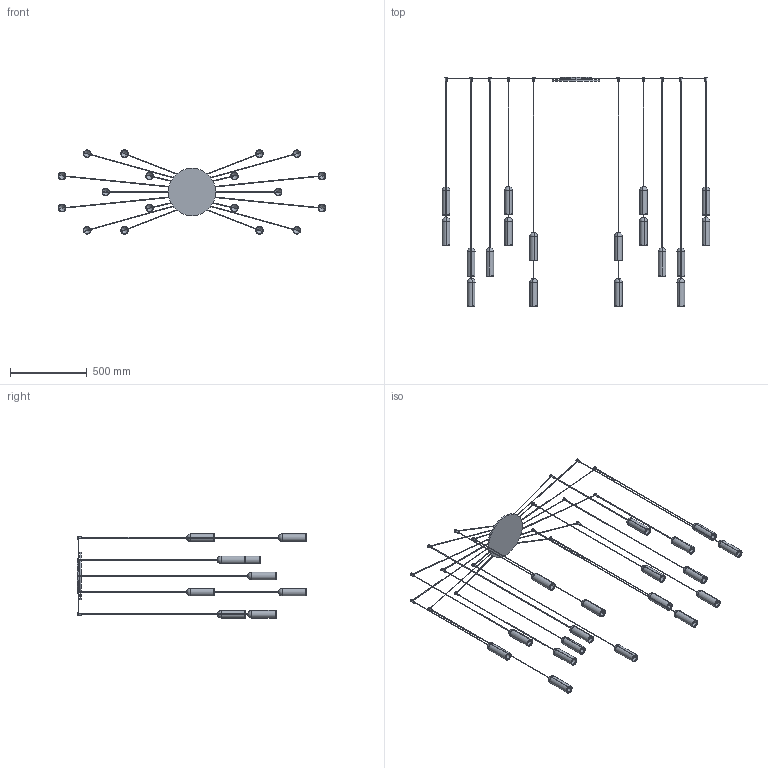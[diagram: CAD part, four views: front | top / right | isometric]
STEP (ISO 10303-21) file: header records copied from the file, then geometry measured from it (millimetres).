
FILE_DESCRIPTION (( 'STEP AP203' ), '1' );
FILE_NAME ('NANB2-00-NANUM 18 B ROSONE CENTRALE.STEP', '2024-07-31T07:25:33', ( '' ), ( '' ), 'SwSTEP 2.0', 'SolidWorks 2022', '' );
FILE_SCHEMA (( 'CONFIG_CONTROL_DESIGN' ));
Length unit declared in the file: millimetre
Products named in the file (7): NANUM_Rosone diam.310_18B<A macchina>; NANUM_LAMPADA SINGOLA_H=2100; NANB2-00-NANUM 18 B ROSONE CENTRALE; NANUM_LAMPADA SINGOLA_H=1700; NANUM_LAMPADA SINGOLA_H=1800; NANUM_LAMPADA SINGOLA_H=1900; NANUM_LAMPADA SINGOLA_H=1500
Assembly tree (19 placements, depth 2):
  NANB2-00-NANUM 18 B ROSONE CENTRALE
    NANUM_Rosone diam.310_18B<A macchina>
    NANUM_LAMPADA SINGOLA_H=2100  x4
    NANUM_LAMPADA SINGOLA_H=1500  x4
    NANUM_LAMPADA SINGOLA_H=1800  x2
    NANUM_LAMPADA SINGOLA_H=1900  x4
    NANUM_LAMPADA SINGOLA_H=1700  x4
Bounding box: 1747.86 x 1500 x 549.99 mm (x, y, z)
Volume: 2898385.6 mm3; surface area: 1631627.2 mm2
Topology: 54 solids, 54 shells, 651 faces, 1426 edges, 812 vertices
Faces by surface type: cylinder 326, plane 145, cone 72, sphere 72, torus 36
Entity records: 7105 total; most frequent: CARTESIAN_POINT 1321, DIRECTION 1128, ORIENTED_EDGE 836, AXIS2_PLACEMENT_3D 495, EDGE_CURVE 418, VERTEX_POINT 260, EDGE_LOOP 256, CIRCLE 238
